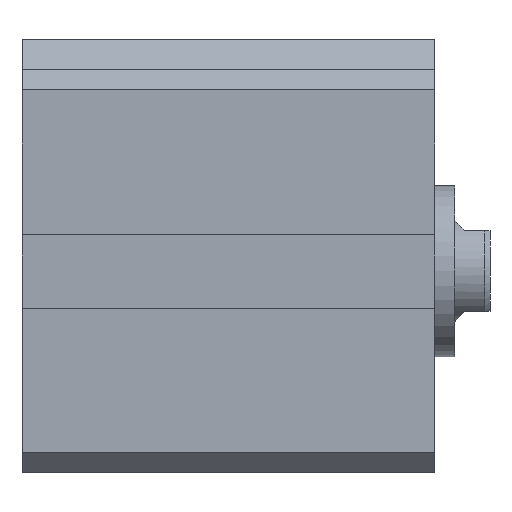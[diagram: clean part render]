
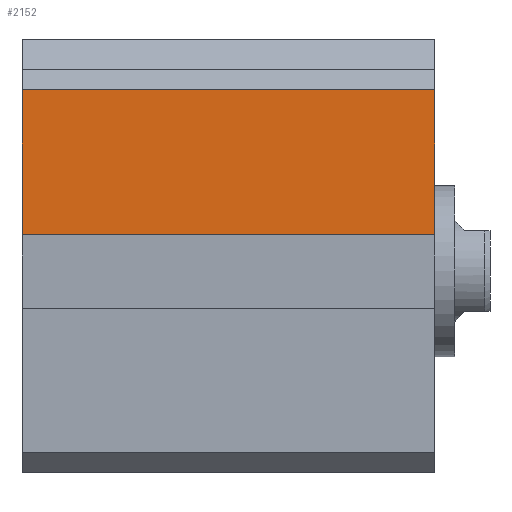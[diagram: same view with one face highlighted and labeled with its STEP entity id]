
A CAD part, left-side view. The second image highlights one B-rep face of the part: STEP entity #2152.
In plain terms, the highlighted planar face has unit normal (-1, 0, 0).
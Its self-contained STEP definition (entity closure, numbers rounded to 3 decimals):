
#111=LINE('',#2946,#227);
#132=LINE('',#3065,#248);
#134=LINE('',#3069,#250);
#135=LINE('',#3071,#251);
#227=VECTOR('',#2465,1000.);
#248=VECTOR('',#2598,1000.);
#250=VECTOR('',#2602,1000.);
#251=VECTOR('',#2603,1000.);
#436=ORIENTED_EDGE('',*,*,#721,.F.);
#437=ORIENTED_EDGE('',*,*,#772,.T.);
#438=ORIENTED_EDGE('',*,*,#773,.F.);
#439=ORIENTED_EDGE('',*,*,#770,.T.);
#721=EDGE_CURVE('',#906,#907,#111,.T.);
#770=EDGE_CURVE('',#949,#907,#132,.T.);
#772=EDGE_CURVE('',#906,#950,#134,.T.);
#773=EDGE_CURVE('',#949,#950,#135,.T.);
#906=VERTEX_POINT('',#2945);
#907=VERTEX_POINT('',#2947);
#949=VERTEX_POINT('',#3066);
#950=VERTEX_POINT('',#3070);
#1142=EDGE_LOOP('',(#436,#437,#438,#439));
#1306=FACE_BOUND('',#1142,.T.);
#1424=PLANE('',#2308);
#2152=ADVANCED_FACE('',(#1306),#1424,.T.);
#2308=AXIS2_PLACEMENT_3D('',#3068,#2600,#2601);
#2465=DIRECTION('',(0.,0.,1.));
#2598=DIRECTION('',(0.,1.,0.));
#2600=DIRECTION('',(-1.,0.,0.));
#2601=DIRECTION('',(0.,0.,1.));
#2602=DIRECTION('',(0.,-1.,0.));
#2603=DIRECTION('',(0.,0.,-1.));
#2945=CARTESIAN_POINT('',(-20.,20.5,3.675));
#2946=CARTESIAN_POINT('',(-20.,20.5,0.));
#2947=CARTESIAN_POINT('',(-20.,20.5,18.));
#3065=CARTESIAN_POINT('',(-20.,20.5,18.));
#3066=CARTESIAN_POINT('',(-20.,-20.5,18.));
#3068=CARTESIAN_POINT('',(-20.,20.5,3.675));
#3069=CARTESIAN_POINT('',(-20.,20.5,3.675));
#3070=CARTESIAN_POINT('',(-20.,-20.5,3.675));
#3071=CARTESIAN_POINT('',(-20.,-20.5,3.675));
